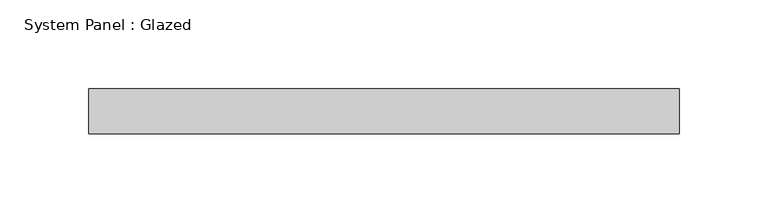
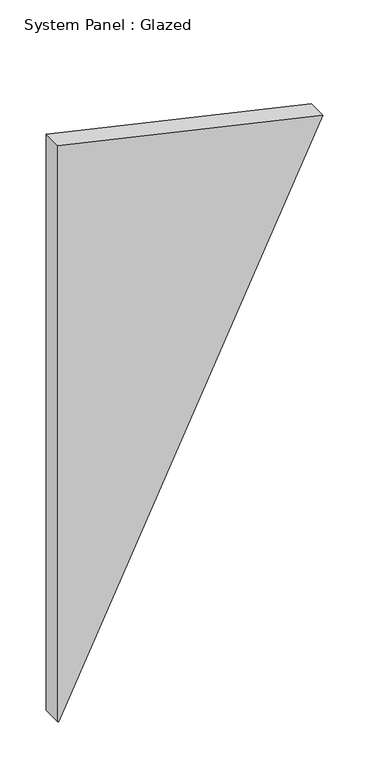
"""IFC4 building model written with IfcOpenShell, lengths in millimetres: plate geometry, System Panel : Glazed."""

import ifcopenshell
import ifcopenshell.guid

model = None  # the IFC model being written
_history = None  # IfcOwnerHistory: only IFC2X3 demands one
_inside = {}  # id of a spatial element -> (the spatial element, [elements in it])
_under = {}  # id of a project, library or spatial element -> (it, [spatial elements below it])
_declared = {}  # id of a project -> (the project, [libraries it declares])
_typed = {}  # id of a type object -> (the type object, [elements of that type])
_made_of = {}  # id of a material, layer set ... -> (it, [elements and type objects made of it])


def new_model(schema):
    """Start an empty IFC model of exactly this schema.

    Asked for "IFC4X3", IfcOpenShell would pick the latest addendum, in which some entities
    have other attributes; the version numbers below select the first issue.
    IFC2X3 requires an IfcOwnerHistory on every rooted entity: one is made here for all.
    """
    global model, _history
    if schema == "IFC4X3":
        model = ifcopenshell.file(schema_version=(4, 3, 0, 0))
    else:
        model = ifcopenshell.file(schema=schema)
    _inside.clear()
    _under.clear()
    _declared.clear()
    _typed.clear()
    _made_of.clear()
    _history = None
    if model.schema == "IFC2X3":
        org = make("IfcOrganization", Name="unknown")
        user = make(
            "IfcPersonAndOrganization",
            ThePerson=make("IfcPerson", FamilyName="unknown"),
            TheOrganization=org,
        )
        app = make(
            "IfcApplication",
            ApplicationDeveloper=org,
            Version="unknown",
            ApplicationFullName="unknown",
            ApplicationIdentifier="unknown",
        )
        _history = make(
            "IfcOwnerHistory",
            OwningUser=user,
            OwningApplication=app,
            ChangeAction="ADDED",
            CreationDate=0,
        )
    return model


def make(cls, **values):
    """One entity of the class cls with the attributes given. An attribute that is None is left unset."""
    return model.create_entity(
        cls, **{name: value for name, value in values.items() if value is not None}
    )


def rooted(cls, **values):
    """An entity with a GlobalId (a new one), such as an element, a storey or a relation."""
    return make(cls, GlobalId=ifcopenshell.guid.new(), OwnerHistory=_history, **values)


def si_unit(unit_type, name, prefix=None):
    """IfcSIUnit, for example si_unit("LENGTHUNIT", "METRE", prefix="MILLI")."""
    return make("IfcSIUnit", UnitType=unit_type, Prefix=prefix, Name=name)


def assignment(units):
    """IfcUnitAssignment: the units of a project."""
    return None if units is None else make("IfcUnitAssignment", Units=units)


def point(xyz):
    """IfcCartesianPoint."""
    return None if xyz is None else make("IfcCartesianPoint", Coordinates=xyz)


def direction(xyz):
    """IfcDirection."""
    return None if xyz is None else make("IfcDirection", DirectionRatios=xyz)


def frame(location, z_axis=None, x_axis=None):
    """IfcAxis2Placement3D, a coordinate frame: its origin and axes. An axis left out is left unset."""
    return make(
        "IfcAxis2Placement3D",
        Location=point(location),
        Axis=direction(z_axis),
        RefDirection=direction(x_axis),
    )


def origin():
    """The frame at (0, 0, 0) with its axes left unset."""
    return frame((0.0, 0.0, 0.0))


def place(relative_to, where):
    """IfcLocalPlacement: puts the frame where relative to a parent placement (None: the world)."""
    return make(
        "IfcLocalPlacement", PlacementRelTo=relative_to, RelativePlacement=where
    )


def context(
    kind, dimensions, precision=None, world=None, true_north=None, identifier=None
):
    """IfcGeometricRepresentationContext, for example the 3D "Model" context."""
    return make(
        "IfcGeometricRepresentationContext",
        ContextIdentifier=identifier,
        ContextType=kind,
        CoordinateSpaceDimension=dimensions,
        Precision=precision,
        WorldCoordinateSystem=world,
        TrueNorth=true_north,
    )


def project(units=None, contexts=None):
    """IfcProject with its units and contexts."""
    return rooted(
        "IfcProject",
        Name="project",
        RepresentationContexts=contexts,
        UnitsInContext=assignment(units),
    )


def spatial(cls, under=None, at=None, **own):
    """A site, building, storey or space (cls), placed at a placement, below another one or the project."""
    s = rooted(cls, ObjectPlacement=at, **own)
    if under is not None:
        _under.setdefault(under.id(), (under, []))[1].append(s)
    return s


def polyline(points):
    """IfcPolyline through the points."""
    return make("IfcPolyline", Points=[point(p) for p in points])


def outline(outer, holes=None, kind="AREA"):
    """IfcArbitraryClosedProfileDef: a profile drawn as a closed curve; with holes, ...WithVoids."""
    if holes is None:
        return make("IfcArbitraryClosedProfileDef", ProfileType=kind, OuterCurve=outer)
    return make(
        "IfcArbitraryProfileDefWithVoids",
        ProfileType=kind,
        OuterCurve=outer,
        InnerCurves=holes,
    )


def extrude(swept, where, along, depth):
    """IfcExtrudedAreaSolid: the profile swept, set in the frame where, extruded along a direction by depth."""
    return make(
        "IfcExtrudedAreaSolid",
        SweptArea=swept,
        Position=where,
        ExtrudedDirection=direction(along),
        Depth=depth,
    )


def shape(context_of_items, identifier, shape_type, items):
    """IfcShapeRepresentation: the items that make up one representation, for example the "Body"."""
    return make(
        "IfcShapeRepresentation",
        ContextOfItems=context_of_items,
        RepresentationIdentifier=identifier,
        RepresentationType=shape_type,
        Items=items,
    )


def source(mapping_origin, context_of_items, identifier, shape_type, items):
    """IfcRepresentationMap: a shape defined once, which mapped items show again and again."""
    return make(
        "IfcRepresentationMap",
        MappingOrigin=mapping_origin,
        MappedRepresentation=shape(context_of_items, identifier, shape_type, items),
    )


def transform(
    local_origin,
    x_axis=None,
    y_axis=None,
    z_axis=None,
    scale=None,
    scale2=None,
    scale3=None,
    uniform=True,
):
    """IfcCartesianTransformationOperator3D, or its non-uniform kind. x_axis, y_axis, z_axis: its Axis1, 2, 3."""
    if uniform:
        return make(
            "IfcCartesianTransformationOperator3D",
            Axis1=direction(x_axis),
            Axis2=direction(y_axis),
            LocalOrigin=point(local_origin),
            Scale=scale,
            Axis3=direction(z_axis),
        )
    return make(
        "IfcCartesianTransformationOperator3DnonUniform",
        Axis1=direction(x_axis),
        Axis2=direction(y_axis),
        LocalOrigin=point(local_origin),
        Scale=scale,
        Axis3=direction(z_axis),
        Scale2=scale2,
        Scale3=scale3,
    )


def mapped(mapping_source, mapping_target):
    """IfcMappedItem: shows the shape of a source again, moved by a transform."""
    return make(
        "IfcMappedItem", MappingSource=mapping_source, MappingTarget=mapping_target
    )


def made_of(thing, what):
    """Note that an element or type object is made of a material, layer set ...; save() writes the relation."""
    if what is not None:
        _made_of.setdefault(what.id(), (what, []))[1].append(thing)
    return thing


def element(
    cls,
    number,
    at=None,
    inside=None,
    cuts=None,
    type_object=None,
    material=None,
    context=None,
    identifier="Body",
    shape_type=None,
    held_by="IfcProductDefinitionShape",
    body=None,
    shapes=None,
    **own,
):
    """One element of the class cls, such as IfcWall. Its Tag is "e" and its number.

    at: its placement. inside: the storey or other place that contains it. cuts: it is an
    opening in that element (IfcRelVoidsElement). A single representation is given by context,
    identifier, shape_type and body (its items); several are given by shapes. held_by: the class
    of the entity that holds the representations. save() writes the other relations.
    """
    e = rooted(cls, Tag="e%d" % number, ObjectPlacement=at, **own)
    if body is not None:
        shapes = [shape(context, identifier, shape_type, body)]
    if shapes is not None:
        e.Representation = make(held_by, Representations=shapes)
    if inside is not None:
        _inside.setdefault(inside.id(), (inside, []))[1].append(e)
    if cuts is not None:
        rooted(
            "IfcRelVoidsElement", RelatingBuildingElement=cuts, RelatedOpeningElement=e
        )
    if type_object is not None:
        _typed.setdefault(type_object.id(), (type_object, []))[1].append(e)
    return made_of(e, material)


def aggregate(whole, parts):
    """IfcRelAggregates: a whole, such as a stair, and the parts it consists of."""
    return rooted("IfcRelAggregates", RelatingObject=whole, RelatedObjects=parts)


def save(model, path):
    """Write the relations noted so far, then the file.

    IfcRelAggregates (storeys below a building ...), IfcRelContainedInSpatialStructure (elements
    in a storey), IfcRelDefinesByType, IfcRelAssociatesMaterial and IfcRelDeclares: one each for
    every whole, place, type object, material and project.
    """
    for whole, parts in _under.values():
        aggregate(whole, parts)
    for where, things in _inside.values():
        rooted(
            "IfcRelContainedInSpatialStructure",
            RelatedElements=things,
            RelatingStructure=where,
        )
    for kind, things in _typed.values():
        rooted("IfcRelDefinesByType", RelatedObjects=things, RelatingType=kind)
    for what, things in _made_of.values():
        rooted("IfcRelAssociatesMaterial", RelatedObjects=things, RelatingMaterial=what)
    for by, libraries in _declared.values():
        rooted("IfcRelDeclares", RelatingContext=by, RelatedDefinitions=libraries)
    model.write(path)


def system_panel_glazed_8185ee31(model_context):
    return source(origin(), model_context, "Body", "SweptSolid", [
        extrude(outline(polyline([(0.2534176, -166.3528866), (0.0, -165.2448819), (687.0025813, 166.3528866), (763.0965383, -166.3488157), (0.2534176, -166.3528866)])), frame((0.0, -44.45, 0.0), z_axis=(0.0, 1.0, 0.0), x_axis=(0.0, 0.0, 1.0)), (0.0, 0.0, 1.0), 25.4),
    ])


if __name__ == "__main__":
    model = new_model("IFC4")
    model_context = context("Model", 3, world=origin())
    ifc_project = project(units=[si_unit("LENGTHUNIT", "METRE", prefix="MILLI")], contexts=[model_context])
    site = spatial("IfcSite", under=ifc_project)
    building = spatial("IfcBuilding", under=site)
    placement = place(None, origin())
    system_panel_glazed_shape = system_panel_glazed_8185ee31(model_context)
    element("IfcPlate", 1, ObjectType="System Panel : Glazed", at=placement, inside=building, context=model_context, shape_type="MappedRepresentation", body=[
        mapped(system_panel_glazed_shape, transform((0.0, 0.0, 0.0), x_axis=(1.0, 0.0, 0.0), y_axis=(0.0, 1.0, 0.0), z_axis=(0.0, 0.0, 1.0))),
    ])
    save(model, "model.ifc")
